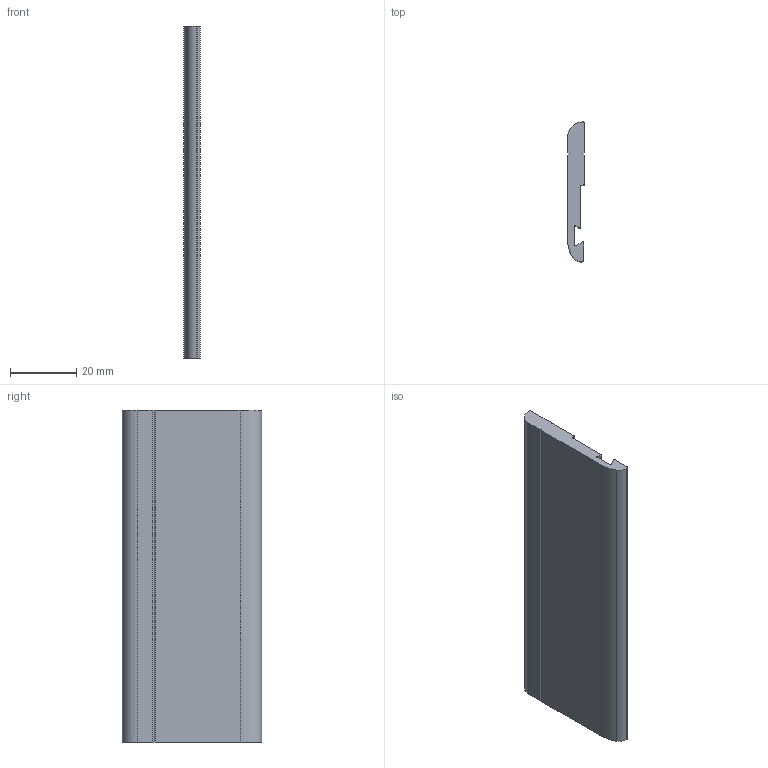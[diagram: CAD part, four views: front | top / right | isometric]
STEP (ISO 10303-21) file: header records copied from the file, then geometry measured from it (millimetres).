
FILE_DESCRIPTION (( 'STEP AP214' ), '1' );
FILE_NAME ('A40796.step', '2024-12-03T16:13:06', ( '' ), ( '' ), 'SwSTEP 2.0', 'SolidWorks 2023', '' );
FILE_SCHEMA (( 'AUTOMOTIVE_DESIGN' ));
Length unit declared in the file: millimetre
Products named in the file (1): A40796
Bounding box: 5 x 42 x 100 mm (x, y, z)
Volume: 16824.5 mm3; surface area: 10117.4 mm2
Topology: 1 solids, 1 shells, 29 faces, 81 edges, 54 vertices
Faces by surface type: plane 18, cylinder 11
Entity records: 960 total; most frequent: CARTESIAN_POINT 165, DIRECTION 163, ORIENTED_EDGE 162, EDGE_CURVE 81, LINE 59, VECTOR 59, VERTEX_POINT 54, AXIS2_PLACEMENT_3D 52
